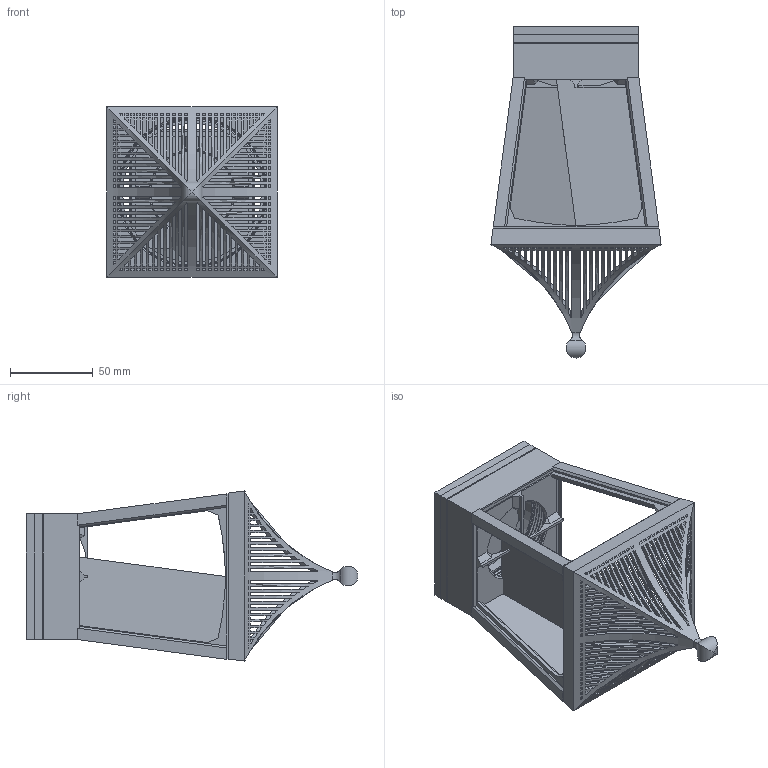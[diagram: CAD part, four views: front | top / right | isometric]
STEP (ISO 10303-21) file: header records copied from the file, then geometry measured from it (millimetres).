
FILE_DESCRIPTION(/* description */ ('STEP AP214','CAx-IF Rec.Pracs.---User Defined Attributes---1.5---2016-08-15'),/* implementation_level */ '2;1');
FILE_NAME(/* name */ '6ae31edaf048ba5c842f5ce8',/* time_stamp */ '2026-10-29T10:24:27Z',/* author */ (''),/* organization */ (''),/* preprocessor_version */ 'ST-DEVELOPER v20',/* originating_system */ 'ONSHAPE BY PTC INC, 1.222',/* authorisation */ ' ');
FILE_SCHEMA (('AUTOMOTIVE_DESIGN {1 0 10303 214 3 1 1}'));
Length unit declared in the file: metre
Products named in the file (8): window; core_remover; roof_top; bottom_part; frame; Part 4; clickbase; front_remover
Bounding box: 102.89 x 200.57 x 102.89 mm (x, y, z)
Volume: 300163.6 mm3; surface area: 152699.4 mm2
Topology: 8 solids, 8 shells, 1132 faces, 2970 edges, 1957 vertices
Faces by surface type: plane 1026, cylinder 52, bspline 37, cone 16, torus 1
Full cylindrical faces by diameter (mm): 4.4 x4, 5 x4, 6.753 x4, 50 x1, 52 x1, 63 x1, 65.615 x1, 84 x1
Entity records: 37999 total; most frequent: CARTESIAN_POINT 9307, ORIENTED_EDGE 5860, DIRECTION 5787, EDGE_CURVE 2930, VERTEX_POINT 1944, LINE 1941, VECTOR 1941, AXIS2_PLACEMENT_3D 1923
